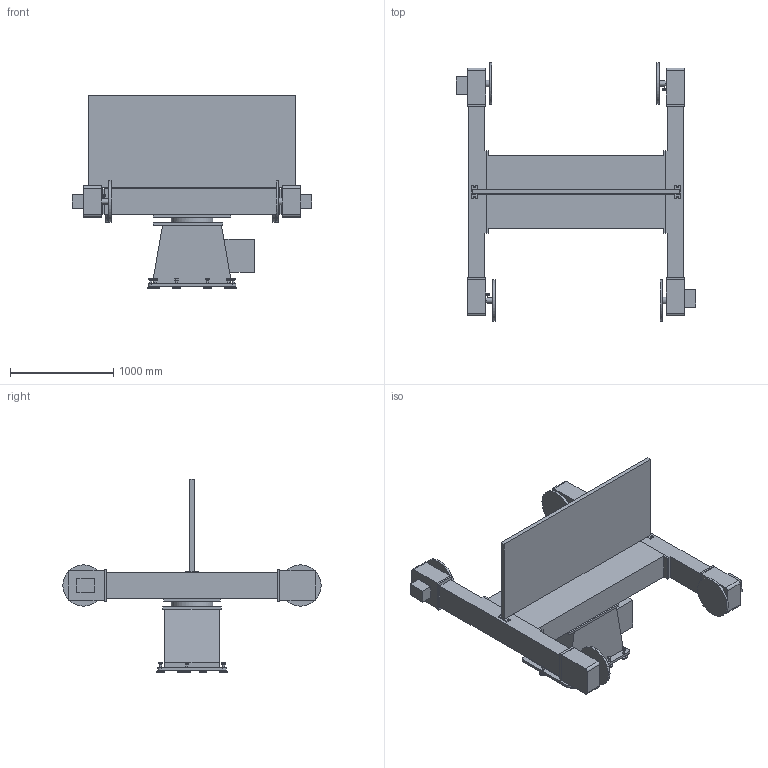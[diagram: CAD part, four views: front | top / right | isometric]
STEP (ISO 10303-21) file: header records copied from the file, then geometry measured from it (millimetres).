
FILE_DESCRIPTION((''),'2;1');
FILE_NAME('H:\Machine construction\Products\Layout symbols\Positioners\VMH\013161-100 VMH-500 S2NM (low res).stp','2008-03-31T14:10:56',('pbt'),(''),'Autodesk Inventor 2008','Autodesk Inventor 2008','');
FILE_SCHEMA(('AUTOMOTIVE_DESIGN { 1 0 10303 214 1 1 1 1 }'));
Length unit declared in the file: millimetre
Products named in the file (16): 013161- VMH-500 S2NM (iAssy).iam (No details); 013157-100 Y-enhet (1500).iam (No details); 013157-100 Y-enhet (low-res); 013163-100 Vinge 500 kg.iam (No details); 114998-100  Mittbalk (Bearbetning) (iAssy).iam (No details); 114998-100 Mittbalk (Bearbetning) (low-res); 115010-100 Arm (bearbetning).iam (No details); 115010-100 Arm (bearbetning) (low-res); 114928-100 Drivdocka 500 kg.iam (No details); 114928-100 Drivdocka 500kg (low-res); 114933-100 Stöddocka.iam (No details); 114933-100 Stöddocka (low-res); 6002115 MC6S 16x40; 6026012 RB M16; 215282-100 Bländskydd.iam (No details); 215282-100 Bländskydd (low-res)
Assembly tree (18 placements, depth 4):
  013161- VMH-500 S2NM (iAssy).iam (No details)
    013157-100 Y-enhet (1500).iam (No details)
      013157-100 Y-enhet (low-res)
    013163-100 Vinge 500 kg.iam (No details)
      114998-100  Mittbalk (Bearbetning) (iAssy).iam (No details)
        114998-100 Mittbalk (Bearbetning) (low-res)
      115010-100 Arm (bearbetning).iam (No details)  x2
        115010-100 Arm (bearbetning) (low-res)
      114928-100 Drivdocka 500 kg.iam (No details)  x2
        114928-100 Drivdocka 500kg (low-res)
      114933-100 Stöddocka.iam (No details)  x2
        114933-100 Stöddocka (low-res)
        6002115 MC6S 16x40
        6026012 RB M16
    215282-100 Bländskydd.iam (No details)
      215282-100 Bländskydd (low-res)
Bounding box: 2315 x 2500 x 1874 mm (x, y, z)
Volume: 870553555.1 mm3; surface area: 17137155.2 mm2
Topology: 17 solids, 28 shells, 549 faces, 1121 edges, 742 vertices
Faces by surface type: plane 343, cylinder 91, bspline 72, cone 43
Full cylindrical faces by diameter (mm): 16 x4, 17 x2, 20 x33, 24 x2, 28.19 x11, 30 x2, 50 x2, 64.925 x2, 65 x1, 70 x11, 100 x1, 133 x2, 220 x1, 400 x4, 403.5 x1
Entity records: 12151 total; most frequent: CARTESIAN_POINT 2801, DIRECTION 1758, ORIENTED_EDGE 1478, EDGE_CURVE 739, AXIS2_PLACEMENT_3D 688, EDGE_LOOP 680, VERTEX_POINT 559, FACE_OUTER_BOUND 446
